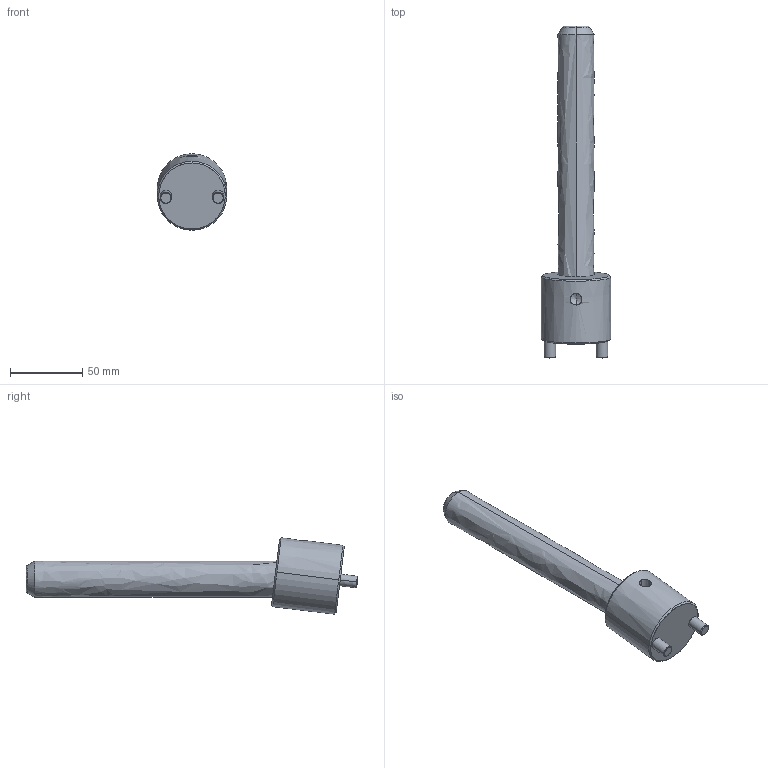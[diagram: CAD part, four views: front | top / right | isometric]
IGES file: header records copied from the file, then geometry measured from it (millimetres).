
Start section: START RECORD GO HERE.
Global section: file name: CI0725175.igs; native system: DASSAULT SYSTEMES CATIA V5 R20 - www.3ds.com; preprocessor: CATIA Version 5 Release 20 ; author: r.borello; organization: CFTORINO; date: 20190624.092953; units: millimetre
Bounding box: 48 x 229.61 x 52.88 mm (x, y, z)
Surface area: 31368.6 mm2 (no closed solid volume)
Topology: 0 solids, 0 shells, 39 faces, 162 edges, 160 vertices
Faces by surface type: revolution 32, plane 7
